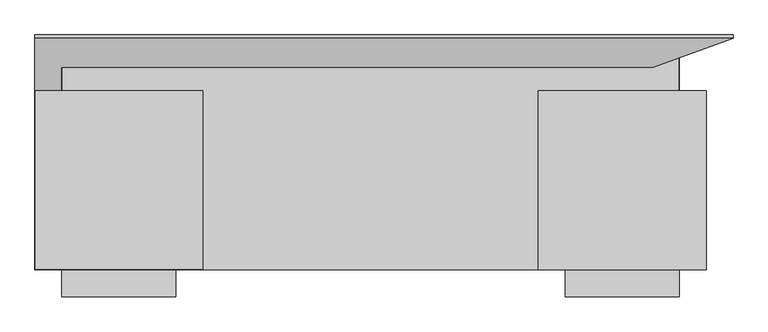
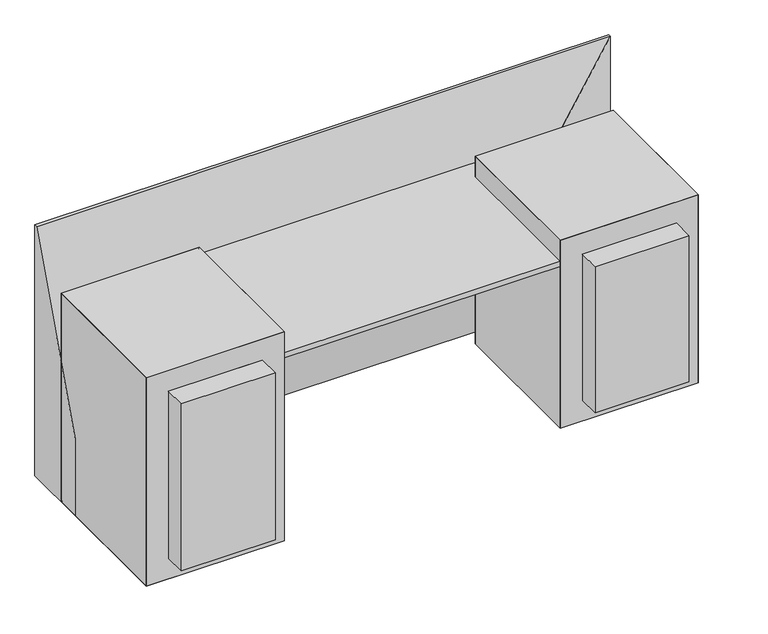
"""IFC4 building model written with IfcOpenShell, lengths in millimetres: proxy geometry, CCN^APOGEE_L4 36x78 FIXED TOP DESK-LIFT BRIDGE RT PARTS SOLID."""

import ifcopenshell
import ifcopenshell.guid

model = None  # the IFC model being written
_history = None  # IfcOwnerHistory: only IFC2X3 demands one
_inside = {}  # id of a spatial element -> (the spatial element, [elements in it])
_under = {}  # id of a project, library or spatial element -> (it, [spatial elements below it])
_declared = {}  # id of a project -> (the project, [libraries it declares])
_typed = {}  # id of a type object -> (the type object, [elements of that type])
_made_of = {}  # id of a material, layer set ... -> (it, [elements and type objects made of it])


def new_model(schema):
    """Start an empty IFC model of exactly this schema.

    Asked for "IFC4X3", IfcOpenShell would pick the latest addendum, in which some entities
    have other attributes; the version numbers below select the first issue.
    IFC2X3 requires an IfcOwnerHistory on every rooted entity: one is made here for all.
    """
    global model, _history
    if schema == "IFC4X3":
        model = ifcopenshell.file(schema_version=(4, 3, 0, 0))
    else:
        model = ifcopenshell.file(schema=schema)
    _inside.clear()
    _under.clear()
    _declared.clear()
    _typed.clear()
    _made_of.clear()
    _history = None
    if model.schema == "IFC2X3":
        org = make("IfcOrganization", Name="unknown")
        user = make(
            "IfcPersonAndOrganization",
            ThePerson=make("IfcPerson", FamilyName="unknown"),
            TheOrganization=org,
        )
        app = make(
            "IfcApplication",
            ApplicationDeveloper=org,
            Version="unknown",
            ApplicationFullName="unknown",
            ApplicationIdentifier="unknown",
        )
        _history = make(
            "IfcOwnerHistory",
            OwningUser=user,
            OwningApplication=app,
            ChangeAction="ADDED",
            CreationDate=0,
        )
    return model


def make(cls, **values):
    """One entity of the class cls with the attributes given. An attribute that is None is left unset."""
    return model.create_entity(
        cls, **{name: value for name, value in values.items() if value is not None}
    )


def rooted(cls, **values):
    """An entity with a GlobalId (a new one), such as an element, a storey or a relation."""
    return make(cls, GlobalId=ifcopenshell.guid.new(), OwnerHistory=_history, **values)


def si_unit(unit_type, name, prefix=None):
    """IfcSIUnit, for example si_unit("LENGTHUNIT", "METRE", prefix="MILLI")."""
    return make("IfcSIUnit", UnitType=unit_type, Prefix=prefix, Name=name)


def assignment(units):
    """IfcUnitAssignment: the units of a project."""
    return None if units is None else make("IfcUnitAssignment", Units=units)


def point(xyz):
    """IfcCartesianPoint."""
    return None if xyz is None else make("IfcCartesianPoint", Coordinates=xyz)


def direction(xyz):
    """IfcDirection."""
    return None if xyz is None else make("IfcDirection", DirectionRatios=xyz)


def frame(location, z_axis=None, x_axis=None):
    """IfcAxis2Placement3D, a coordinate frame: its origin and axes. An axis left out is left unset."""
    return make(
        "IfcAxis2Placement3D",
        Location=point(location),
        Axis=direction(z_axis),
        RefDirection=direction(x_axis),
    )


def origin():
    """The frame at (0, 0, 0) with its axes left unset."""
    return frame((0.0, 0.0, 0.0))


def place(relative_to, where):
    """IfcLocalPlacement: puts the frame where relative to a parent placement (None: the world)."""
    return make(
        "IfcLocalPlacement", PlacementRelTo=relative_to, RelativePlacement=where
    )


def context(
    kind, dimensions, precision=None, world=None, true_north=None, identifier=None
):
    """IfcGeometricRepresentationContext, for example the 3D "Model" context."""
    return make(
        "IfcGeometricRepresentationContext",
        ContextIdentifier=identifier,
        ContextType=kind,
        CoordinateSpaceDimension=dimensions,
        Precision=precision,
        WorldCoordinateSystem=world,
        TrueNorth=true_north,
    )


def project(units=None, contexts=None):
    """IfcProject with its units and contexts."""
    return rooted(
        "IfcProject",
        Name="project",
        RepresentationContexts=contexts,
        UnitsInContext=assignment(units),
    )


def spatial(cls, under=None, at=None, **own):
    """A site, building, storey or space (cls), placed at a placement, below another one or the project."""
    s = rooted(cls, ObjectPlacement=at, **own)
    if under is not None:
        _under.setdefault(under.id(), (under, []))[1].append(s)
    return s


def polyline(points):
    """IfcPolyline through the points."""
    return make("IfcPolyline", Points=[point(p) for p in points])


def outline(outer, holes=None, kind="AREA"):
    """IfcArbitraryClosedProfileDef: a profile drawn as a closed curve; with holes, ...WithVoids."""
    if holes is None:
        return make("IfcArbitraryClosedProfileDef", ProfileType=kind, OuterCurve=outer)
    return make(
        "IfcArbitraryProfileDefWithVoids",
        ProfileType=kind,
        OuterCurve=outer,
        InnerCurves=holes,
    )


def extrude(swept, where, along, depth):
    """IfcExtrudedAreaSolid: the profile swept, set in the frame where, extruded along a direction by depth."""
    return make(
        "IfcExtrudedAreaSolid",
        SweptArea=swept,
        Position=where,
        ExtrudedDirection=direction(along),
        Depth=depth,
    )


def faces_of(points, faces, orient=None, outer=None):
    """IfcFace entities. A face is a list of loops; a loop is a list of indices into points, from 0.

    orient and outer hold one flag for each loop. By default every Orientation is true, the
    first loop of a face is its IfcFaceOuterBound and the others are IfcFaceBound.
    """
    made = []
    for i, loops in enumerate(faces):
        bounds = []
        for j, loop in enumerate(loops):
            is_outer = j == 0 if outer is None else outer[i][j]
            bounds.append(
                make(
                    "IfcFaceOuterBound" if is_outer else "IfcFaceBound",
                    Bound=make("IfcPolyLoop", Polygon=[points[k] for k in loop]),
                    Orientation=True if orient is None else orient[i][j],
                )
            )
        made.append(make("IfcFace", Bounds=bounds))
    return made


def faceted_brep(points, faces, orient=None, outer=None, voids=None):
    """IfcFacetedBrep: a solid bounded by flat faces; with voids (closed shells), ...WithVoids."""
    shared = [point(p) for p in points]
    hull = make("IfcClosedShell", CfsFaces=faces_of(shared, faces, orient, outer))
    if voids is None:
        return make("IfcFacetedBrep", Outer=hull)
    return make(
        "IfcFacetedBrepWithVoids",
        Outer=hull,
        Voids=[
            make(cls, CfsFaces=faces_of(shared, fs, o, b)) for cls, fs, o, b in voids
        ],
    )


def shape(context_of_items, identifier, shape_type, items):
    """IfcShapeRepresentation: the items that make up one representation, for example the "Body"."""
    return make(
        "IfcShapeRepresentation",
        ContextOfItems=context_of_items,
        RepresentationIdentifier=identifier,
        RepresentationType=shape_type,
        Items=items,
    )


def source(mapping_origin, context_of_items, identifier, shape_type, items):
    """IfcRepresentationMap: a shape defined once, which mapped items show again and again."""
    return make(
        "IfcRepresentationMap",
        MappingOrigin=mapping_origin,
        MappedRepresentation=shape(context_of_items, identifier, shape_type, items),
    )


def transform(
    local_origin,
    x_axis=None,
    y_axis=None,
    z_axis=None,
    scale=None,
    scale2=None,
    scale3=None,
    uniform=True,
):
    """IfcCartesianTransformationOperator3D, or its non-uniform kind. x_axis, y_axis, z_axis: its Axis1, 2, 3."""
    if uniform:
        return make(
            "IfcCartesianTransformationOperator3D",
            Axis1=direction(x_axis),
            Axis2=direction(y_axis),
            LocalOrigin=point(local_origin),
            Scale=scale,
            Axis3=direction(z_axis),
        )
    return make(
        "IfcCartesianTransformationOperator3DnonUniform",
        Axis1=direction(x_axis),
        Axis2=direction(y_axis),
        LocalOrigin=point(local_origin),
        Scale=scale,
        Axis3=direction(z_axis),
        Scale2=scale2,
        Scale3=scale3,
    )


def mapped(mapping_source, mapping_target):
    """IfcMappedItem: shows the shape of a source again, moved by a transform."""
    return make(
        "IfcMappedItem", MappingSource=mapping_source, MappingTarget=mapping_target
    )


def made_of(thing, what):
    """Note that an element or type object is made of a material, layer set ...; save() writes the relation."""
    if what is not None:
        _made_of.setdefault(what.id(), (what, []))[1].append(thing)
    return thing


def element(
    cls,
    number,
    at=None,
    inside=None,
    cuts=None,
    type_object=None,
    material=None,
    context=None,
    identifier="Body",
    shape_type=None,
    held_by="IfcProductDefinitionShape",
    body=None,
    shapes=None,
    **own,
):
    """One element of the class cls, such as IfcWall. Its Tag is "e" and its number.

    at: its placement. inside: the storey or other place that contains it. cuts: it is an
    opening in that element (IfcRelVoidsElement). A single representation is given by context,
    identifier, shape_type and body (its items); several are given by shapes. held_by: the class
    of the entity that holds the representations. save() writes the other relations.
    """
    e = rooted(cls, Tag="e%d" % number, ObjectPlacement=at, **own)
    if body is not None:
        shapes = [shape(context, identifier, shape_type, body)]
    if shapes is not None:
        e.Representation = make(held_by, Representations=shapes)
    if inside is not None:
        _inside.setdefault(inside.id(), (inside, []))[1].append(e)
    if cuts is not None:
        rooted(
            "IfcRelVoidsElement", RelatingBuildingElement=cuts, RelatedOpeningElement=e
        )
    if type_object is not None:
        _typed.setdefault(type_object.id(), (type_object, []))[1].append(e)
    return made_of(e, material)


def aggregate(whole, parts):
    """IfcRelAggregates: a whole, such as a stair, and the parts it consists of."""
    return rooted("IfcRelAggregates", RelatingObject=whole, RelatedObjects=parts)


def save(model, path):
    """Write the relations noted so far, then the file.

    IfcRelAggregates (storeys below a building ...), IfcRelContainedInSpatialStructure (elements
    in a storey), IfcRelDefinesByType, IfcRelAssociatesMaterial and IfcRelDeclares: one each for
    every whole, place, type object, material and project.
    """
    for whole, parts in _under.values():
        aggregate(whole, parts)
    for where, things in _inside.values():
        rooted(
            "IfcRelContainedInSpatialStructure",
            RelatedElements=things,
            RelatingStructure=where,
        )
    for kind, things in _typed.values():
        rooted("IfcRelDefinesByType", RelatedObjects=things, RelatingType=kind)
    for what, things in _made_of.values():
        rooted("IfcRelAssociatesMaterial", RelatedObjects=things, RelatingMaterial=what)
    for by, libraries in _declared.values():
        rooted("IfcRelDeclares", RelatingContext=by, RelatedDefinitions=libraries)
    model.write(path)


def generic_models_5b13a13f(model_context):
    return source(origin(), model_context, "Body", "SolidModel", [
        extrude(outline(polyline([(-158.75, 381.0), (-139.7, 361.95), (-139.7, -1352.55), (-158.75, -1371.6), (-158.75, 381.0)])), frame((0.0, 584.2, 0.0), z_axis=(0.0, 1.0, 0.0), x_axis=(0.0, 0.0, 1.0)), (0.0, 0.0, 1.0), 127.0),
        faceted_brep([(-1428.75, 95.25, -723.9), (-1428.75, 565.15, -723.9), (-1447.8, 584.2, -742.95), (-1447.8, 76.2, -742.95), (-1225.55, 565.15, -723.9), (-1225.55, 584.2, -742.95), (-1225.55, 76.2, -742.95), (-1225.55, 95.25, -723.9)], [[[0, 1, 2, 3]], [[1, 4, 5, 2]], [[6, 7, 0, 3]], [[6, 5, 4, 7]], [[5, 6, 3, 2]], [[4, 1, 0, 7]]]),
        extrude(outline(polyline([(-107.95, -1320.8), (-57.15, -1371.6), (-158.75, -1371.6), (-107.95, -1320.8)])), frame((0.0, 584.2, 0.0), z_axis=(0.0, 1.0, 0.0), x_axis=(0.0, 0.0, 1.0)), (0.0, 0.0, 1.0), 127.0),
        faceted_brep([(-812.8, 733.425, -742.95), (-1270.0, 567.0178089, -285.75), (-1447.8, 502.3039012, -463.55), (-1447.8, 502.3039012, -742.95), (-1447.8, 742.95, -742.95), (533.4, 742.95, -742.95), (533.4, 733.425, -742.95), (-1447.8, 733.425, 171.45), (-1447.8, 742.95, 171.45), (76.2, 567.0178089, -285.75), (533.4, 733.425, 171.45), (533.4, 742.95, 171.45)], [[[0, 1, 2, 3]], [[0, 3, 4, 5, 6]], [[2, 7, 8, 4, 3]], [[1, 9, 10, 7, 2]], [[9, 6, 10]], [[1, 0, 6, 9]], [[10, 6, 5, 11]], [[7, 10, 11, 8]], [[5, 4, 8, 11]]]),
        extrude(outline(polyline([(-1371.6, 0.0), (-1371.6, 76.2), (-1047.75, 76.2), (-1047.75, 0.0), (-1371.6, 0.0)])), frame((0.0, 0.0, -666.75), z_axis=(0.0, 0.0, 1.0), x_axis=(1.0, 0.0, 0.0)), (0.0, 0.0, 1.0), 609.6),
        faceted_brep([(457.2, 76.2, 19.05), (219.075, 314.325, -219.075), (219.075, 346.075, -219.075), (457.2, 584.2, 19.05), (-19.05, 76.2, 19.05), (-19.05, 584.2, 19.05)], [[[0, 1, 2, 3]], [[1, 0, 4]], [[3, 2, 5]], [[5, 4, 0, 3]], [[1, 4, 5, 2]]]),
        extrude(outline(polyline([(-107.95, 330.2), (-158.75, 381.0), (-57.15, 381.0), (-107.95, 330.2)])), frame((0.0, 584.2, 0.0), z_axis=(0.0, 1.0, 0.0), x_axis=(0.0, 0.0, 1.0)), (0.0, 0.0, 1.0), 127.0),
        faceted_brep([(-971.55, 76.2, -742.95), (-1209.675, 314.325, -504.825), (-1209.675, 314.325, -219.075), (-971.55, 76.2, 19.05), (-1447.8, 76.2, -742.95), (-1447.8, 76.2, 19.05)], [[[0, 1, 2, 3]], [[2, 1, 4, 5]], [[1, 0, 4]], [[2, 5, 3]], [[0, 3, 5, 4]]]),
        faceted_brep([(-19.05, 584.2, -666.75), (234.95, 330.2, -666.75), (-19.05, 76.2, -666.75), (-19.05, 584.2, 19.05), (234.95, 330.2, -234.95), (-19.05, 76.2, 19.05)], [[[0, 1, 2]], [[1, 0, 3, 4]], [[1, 4, 5, 2]], [[4, 3, 5]], [[5, 3, 0, 2]]]),
        faceted_brep([(-1447.8, 76.2, 19.05), (-1193.8, 330.2, -234.95), (-1447.8, 584.2, 19.05), (-1447.8, 76.2, -742.95), (-1193.8, 330.2, -488.95), (-1447.8, 584.2, -742.95)], [[[0, 1, 2]], [[1, 0, 3, 4]], [[4, 3, 5]], [[1, 4, 5, 2]], [[0, 2, 5, 3]]]),
        extrude(outline(polyline([(2.38125, 414.3375), (435.76875, 414.3375), (435.76875, 97.63125), (2.38125, 97.63125), (2.38125, 414.3375)])), frame((0.0, 0.0, -666.75), z_axis=(0.0, 0.0, 1.0), x_axis=(1.0, 0.0, 0.0)), (0.0, 0.0, 1.0), 19.05),
        extrude(outline(polyline([(361.95, 584.2), (-1352.55, 584.2), (-1352.55, 603.25), (361.95, 603.25), (361.95, 584.2)])), frame((0.0, 0.0, -139.7), z_axis=(0.0, 0.0, 1.0), x_axis=(1.0, 0.0, 0.0)), (0.0, 0.0, 1.0), 63.5),
        faceted_brep([(-1447.8, 584.2, 19.05), (-1209.675, 346.075, -219.075), (-1209.675, 314.325, -219.075), (-1447.8, 76.2, 19.05), (-971.55, 584.2, 19.05), (-971.55, 76.2, 19.05)], [[[0, 1, 2, 3]], [[1, 0, 4]], [[3, 2, 5]], [[5, 4, 0, 3]], [[1, 4, 5, 2]]]),
        faceted_brep([(457.2, 76.2, -666.75), (203.2, 330.2, -666.75), (457.2, 584.2, -666.75), (457.2, 76.2, 19.05), (203.2, 330.2, -234.95), (457.2, 584.2, 19.05)], [[[0, 1, 2]], [[1, 0, 3, 4]], [[1, 4, 5, 2]], [[4, 3, 5]], [[5, 3, 0, 2]]]),
        faceted_brep([(-19.05, 76.2, -666.75), (219.075, 314.325, -666.75), (457.2, 76.2, -666.75), (-19.05, 76.2, 19.05), (219.075, 314.325, -219.075), (457.2, 76.2, 19.05)], [[[0, 1, 2]], [[1, 0, 3, 4]], [[1, 4, 5, 2]], [[4, 3, 5]], [[2, 5, 3, 0]]]),
        faceted_brep([(-971.55, 584.2, -742.95), (-1209.675, 346.075, -504.825), (-1447.8, 584.2, -742.95), (-971.55, 584.2, 19.05), (-1447.8, 584.2, 19.05), (-1209.675, 346.075, -219.075)], [[[0, 1, 2]], [[3, 0, 2, 4]], [[1, 0, 3, 5]], [[4, 5, 3]], [[4, 2, 1, 5]]]),
        extrude(outline(polyline([(-57.15, 381.0), (-57.15, -1371.6), (-76.2, -1352.55), (-76.2, 361.95), (-57.15, 381.0)])), frame((0.0, 76.2, 0.0), z_axis=(0.0, 1.0, 0.0), x_axis=(0.0, 0.0, 1.0)), (0.0, 0.0, 1.0), 635.0),
        extrude(outline(polyline([(57.15, 76.2), (381.0, 76.2), (381.0, 0.0), (57.15, 0.0), (57.15, 76.2)])), frame((0.0, 0.0, -590.55), z_axis=(0.0, 0.0, 1.0), x_axis=(1.0, 0.0, 0.0)), (0.0, 0.0, 1.0), 533.4),
        extrude(outline(polyline([(2.38125, 562.76875), (435.76875, 562.76875), (435.76875, 416.71875), (2.38125, 416.71875), (2.38125, 562.76875)])), frame((0.0, 0.0, -666.75), z_axis=(0.0, 0.0, 1.0), x_axis=(1.0, 0.0, 0.0)), (0.0, 0.0, 1.0), 19.05),
        faceted_brep([(457.2, 584.2, -666.75), (219.075, 346.075, -666.75), (-19.05, 584.2, -666.75), (457.2, 584.2, 19.05), (219.075, 346.075, -219.075), (-19.05, 584.2, 19.05)], [[[0, 1, 2]], [[1, 0, 3, 4]], [[1, 4, 5, 2]], [[4, 3, 5]], [[5, 3, 0, 2]]]),
        faceted_brep([(-1225.55, 330.2, -234.95), (-971.55, 584.2, 19.05), (-971.55, 584.2, -431.8), (-1225.55, 330.2, -431.8), (-971.55, 76.2, -431.8), (-971.55, 76.2, 19.05)], [[[0, 1, 2, 3]], [[0, 3, 4, 5]], [[1, 0, 5]], [[3, 2, 4]], [[4, 2, 1, 5]]]),
    ])


if __name__ == "__main__":
    model = new_model("IFC4")
    model_context = context("Model", 3, world=origin())
    ifc_project = project(units=[si_unit("LENGTHUNIT", "METRE", prefix="MILLI")], contexts=[model_context])
    site = spatial("IfcSite", under=ifc_project)
    building = spatial("IfcBuilding", under=site)
    placement = place(None, origin())
    generic_models_shape = generic_models_5b13a13f(model_context)
    element("IfcBuildingElementProxy", 1, Name="CCN^APOGEE_L4 36x78 FIXED TOP DESK-LIFT BRIDGE RT PARTS SOLID", ObjectType="CCN^APOGEE_L4 36x78 FIXED TOP DESK-LIFT BRIDGE RT PARTS SOLID", at=placement, inside=building, context=model_context, shape_type="MappedRepresentation", body=[
        mapped(generic_models_shape, transform((0.0, 0.0, 0.0), x_axis=(1.0, 0.0, 0.0), y_axis=(0.0, 1.0, 0.0), z_axis=(0.0, 0.0, 1.0))),
    ])
    save(model, "model.ifc")
